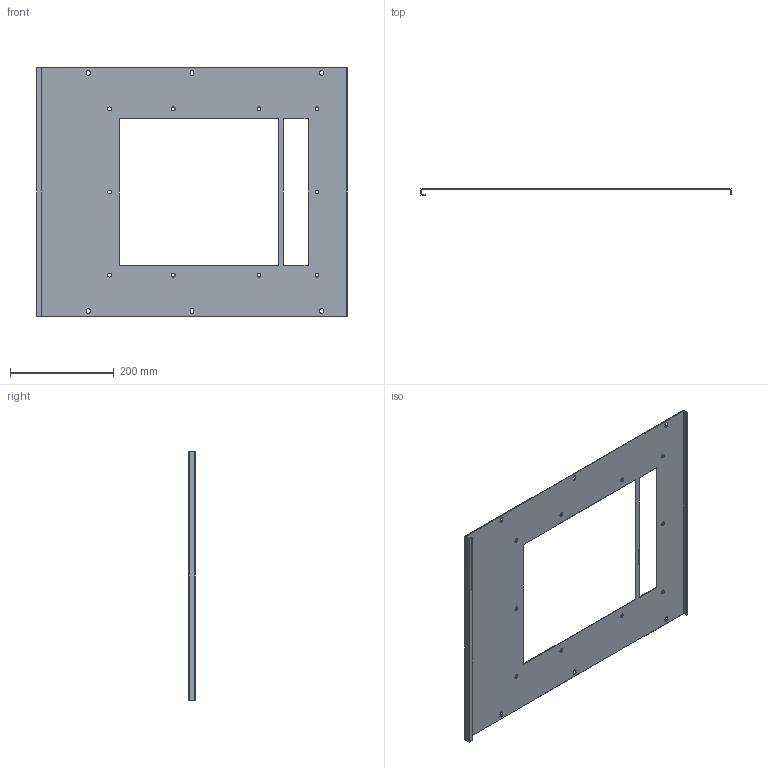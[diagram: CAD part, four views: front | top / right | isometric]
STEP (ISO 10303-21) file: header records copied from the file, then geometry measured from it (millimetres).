
FILE_DESCRIPTION (( 'STEP AP214' ), '1' );
FILE_NAME ('FO-00-PVD-060-060 Ïëàñòðîí ñ âûðåçîì äëÿ ACB Armat D 3P W 600õ600.STEP', '2025-08-26T07:47:41', ( '' ), ( '' ), 'SwSTEP 2.0', 'SolidWorks 2023', '' );
FILE_SCHEMA (( 'AUTOMOTIVE_DESIGN' ));
Length unit declared in the file: millimetre
Products named in the file (1): FO-00-PVD-060-060 Пластрон с вырезом для ACB Armat D 3P W 600х600
Bounding box: 598 x 12.5 x 479 mm (x, y, z)
Volume: 296483.3 mm3; surface area: 401979 mm2
Topology: 1 solids, 1 shells, 80 faces, 234 edges, 156 vertices
Faces by surface type: plane 42, cylinder 38
Entity records: 2769 total; most frequent: DIRECTION 472, CARTESIAN_POINT 471, ORIENTED_EDGE 468, EDGE_CURVE 234, LINE 158, VECTOR 158, AXIS2_PLACEMENT_3D 157, VERTEX_POINT 156
